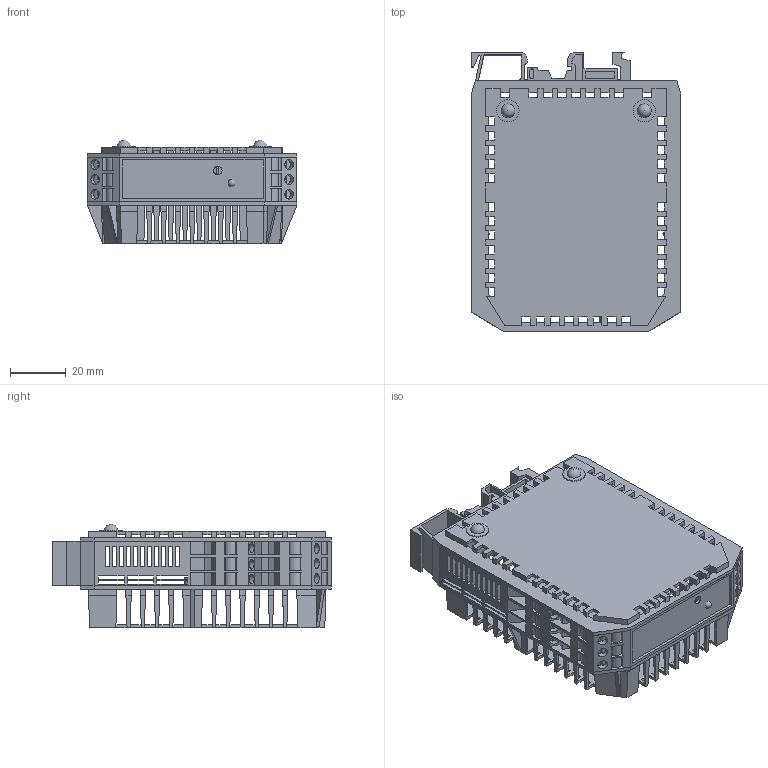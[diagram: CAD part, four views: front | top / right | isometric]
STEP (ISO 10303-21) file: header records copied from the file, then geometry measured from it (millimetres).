
FILE_DESCRIPTION(/* description */ (''),/* implementation_level */ '2;1');
FILE_NAME(/* name */ 'DSL1-35-H-NUC.step',/* time_stamp */ '2023-09-22T11:09:40+02:00',/* author */ (''),/* organization */ (''),/* preprocessor_version */ 'ST-DEVELOPER v20',/* originating_system */ 'Autodesk Translation Framework v12.14.0.127',/* authorisation */ '');
FILE_SCHEMA (('AUTOMOTIVE_DESIGN { 1 0 10303 214 3 1 1 }'));
Length unit declared in the file: millimetre
Products named in the file (6): DSL1-35-H-NUC; Composant1; DSL1-35-HV-NUC OVERTURE FINE v1; DSL1-35-HV-NUC OVERTURE EPAISSE v3; cal25ig v3; cal25ig 3mm v1
Assembly tree (16 placements, depth 2):
  DSL1-35-H-NUC
    Composant1
    DSL1-35-HV-NUC OVERTURE FINE v1
    DSL1-35-HV-NUC OVERTURE EPAISSE v3
    cal25ig v3  x12
    cal25ig 3mm v1
Bounding box: 75.09 x 100.12 x 37 mm (x, y, z)
Volume: 38026 mm3; surface area: 56801.1 mm2
Topology: 19 solids, 19 shells, 1454 faces, 4538 edges, 2991 vertices
Faces by surface type: plane 959, cylinder 428, bspline 62, sphere 5
Full cylindrical faces by diameter (mm): 1.478 x39, 1.933 x78, 3 x20, 3.5 x24, 8 x2
Entity records: 42478 total; most frequent: CARTESIAN_POINT 12280, ORIENTED_EDGE 6820, DIRECTION 5457, EDGE_CURVE 3410, LINE 3045, VECTOR 3045, VERTEX_POINT 2243, AXIS2_PLACEMENT_3D 1206
